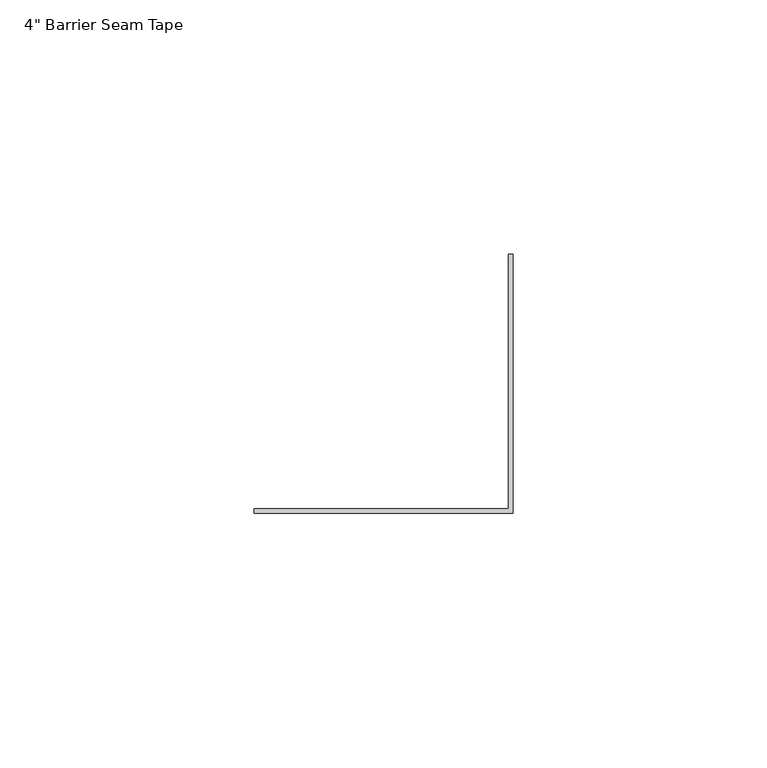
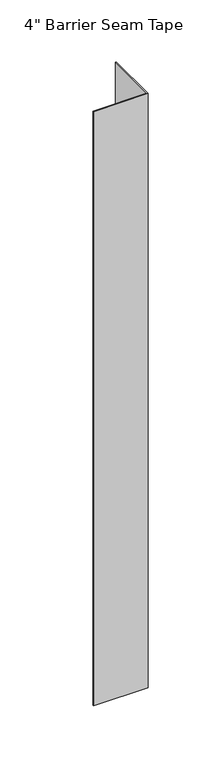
"""IFC4 building model written with IfcOpenShell, lengths in millimetres: proxy geometry."""

from ifc_helpers import new_model, si_unit, origin, origin_with_axes, place, context, project, spatial, polyline, outline, extrude, source, transform, mapped, element, save


def proxy_63d6b373(model_context):
    return source(origin(), model_context, "Body", "SweptSolid", [
        extrude(outline(polyline([(-50.00625, 0.0), (0.0, 0.0), (0.0, 50.00625), (0.79375, 50.00625), (0.79375, -0.79375), (-50.00625, -0.79375), (-50.00625, 0.0)])), origin_with_axes(), (0.0, 0.0, 1.0), 584.2),
    ])


if __name__ == "__main__":
    model = new_model("IFC4")
    model_context = context("Model", 3, world=origin())
    ifc_project = project(units=[si_unit("LENGTHUNIT", "METRE", prefix="MILLI")], contexts=[model_context])
    site = spatial("IfcSite", under=ifc_project)
    building = spatial("IfcBuilding", under=site)
    placement = place(None, origin())
    proxy_shape = proxy_63d6b373(model_context)
    element("IfcBuildingElementProxy", 1, Name="Durabond Generic Model Corner 90 Membrane : 4\" Barrier Seam Tape", ObjectType="Durabond Generic Model Corner 90 Membrane : 4\" Barrier Seam Tape", at=placement, inside=building, context=model_context, shape_type="MappedRepresentation", body=[
        mapped(proxy_shape, transform((0.0, 0.0, 0.0), x_axis=(1.0, 0.0, 0.0), y_axis=(0.0, 1.0, 0.0), z_axis=(0.0, 0.0, 1.0))),
    ])
    save(model, "model.ifc")
